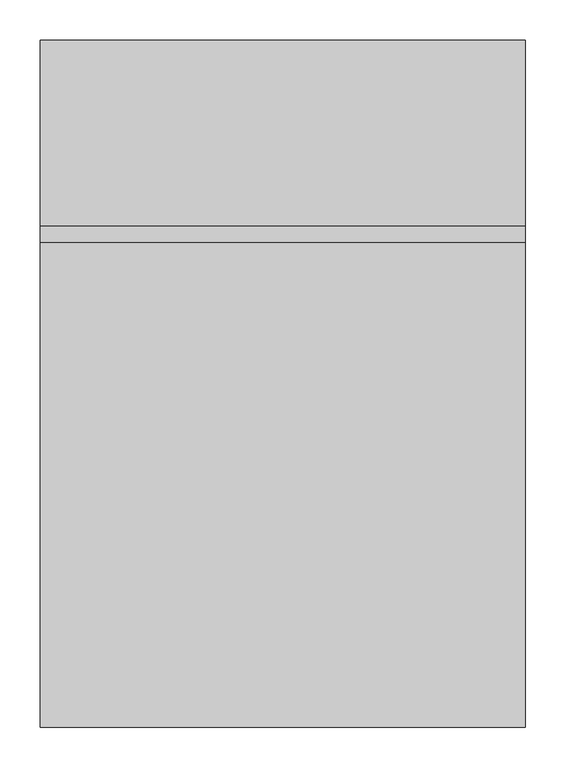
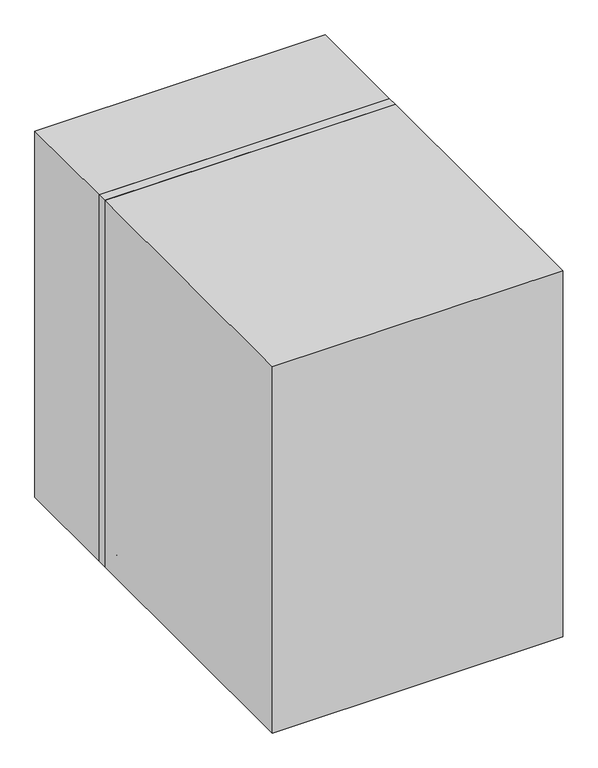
"""IFC4 building model written with IfcOpenShell, lengths in millimetres: electric distribution board geometry, НВО_НавесныеШкафыСплошнаяДверца_DKC : 250х600х800 мм (ГхШхВ)."""

from ifc_helpers import new_model, si_unit, point, frame, frame_2d, origin, place, context, project, spatial, polyline, circle_curve, trimmed, segment, composite_curve, outline, extrude, faceted_brep, source, transform, mapped, element, save
from ifc_brep_helpers import plane_surface, cylinder_surface, revolved_surface, advanced_brep


def electric_distribution_board_24902d2d(model_context):
    return source(origin(), model_context, "Body", "SolidModel", [
        extrude(outline(composite_curve([segment(polyline([(1395.2522548, -210.4361714), (1395.2522548, -202.7599567)]), True, "CONTINUOUS"), segment(trimmed(circle_curve(frame_2d((1404.6374537, -202.7599567)), 9.3851989), [point((1395.2522548, -202.7599567))], [point((1395.9237849, -199.2737072))], False, "CARTESIAN"), True, "CONTINUOUS"), segment(trimmed(circle_curve(frame_2d((1400.4697033, -201.0924825)), 4.8962555), [point((1395.9237849, -199.2737072))], [point((1400.0, -196.2188087))], False, "CARTESIAN"), True, "CONTINUOUS"), segment(trimmed(circle_curve(frame_2d((1399.5302967, -201.0924825)), 4.8962555), [point((1400.0, -196.2188087))], [point((1404.0762151, -199.2737072))], False, "CARTESIAN"), True, "CONTINUOUS"), segment(trimmed(circle_curve(frame_2d((1395.3625463, -202.7599567)), 9.3851989), [point((1404.0762151, -199.2737072))], [point((1404.7477452, -202.7599567))], False, "CARTESIAN"), True, "CONTINUOUS"), segment(polyline([(1404.7477452, -202.7599567), (1404.7477452, -210.4361714), (1395.2522548, -210.4361714)]), True, "CONTINUOUS")], self_intersect=False), holes=[composite_curve([segment(polyline([(1403.4305842, -206.8662202), (1403.4305842, -204.3065187)]), True, "CONTINUOUS"), segment(trimmed(circle_curve(frame_2d((1395.7124901, -204.3065187)), 7.7180942), [point((1403.4305842, -204.3065187))], [point((1402.8023319, -201.256417))], True, "CARTESIAN"), True, "CONTINUOUS"), segment(trimmed(circle_curve(frame_2d((1401.0797503, -201.9974842)), 1.8752248), [point((1402.8023319, -201.256417))], [point((1401.4095765, -200.1514932))], True, "CARTESIAN"), True, "CONTINUOUS"), segment(trimmed(circle_curve(frame_2d((1399.6204625, -210.1649135)), 10.1719966), [point((1401.4095765, -200.1514932))], [point((1400.0, -200.0))], True, "CARTESIAN"), True, "CONTINUOUS"), segment(trimmed(circle_curve(frame_2d((1400.3795375, -210.1649135)), 10.1719966), [point((1400.0, -200.0))], [point((1398.5904235, -200.1514932))], True, "CARTESIAN"), True, "CONTINUOUS"), segment(trimmed(circle_curve(frame_2d((1398.9202497, -201.9974842)), 1.8752248), [point((1398.5904235, -200.1514932))], [point((1397.1976681, -201.256417))], True, "CARTESIAN"), True, "CONTINUOUS"), segment(trimmed(circle_curve(frame_2d((1404.2875099, -204.3065187)), 7.7180942), [point((1397.1976681, -201.256417))], [point((1396.5694158, -204.3065187))], True, "CARTESIAN"), True, "CONTINUOUS"), segment(polyline([(1396.5694158, -204.3065187), (1396.5694158, -206.8662202), (1403.4305842, -206.8662202)]), True, "CONTINUOUS")], self_intersect=False)]), frame((0.0, -252.0, 0.0), z_axis=(0.0, 1.0, 0.0), x_axis=(0.0, 0.0, 1.0)), (0.0, 0.0, 1.0), 2.0),
        extrude(outline(polyline([(1404.7477452, -194.3848727), (1395.2522548, -194.3848727), (1395.2522548, -190.9908575), (1399.2401383, -190.9908575), (1395.2522548, -186.444158), (1395.2522548, -182.3120204), (1400.5384249, -188.1731846), (1404.7477452, -182.4434669), (1404.7477452, -185.0016173), (1400.2876655, -191.0245618), (1404.7477452, -191.0245618), (1404.7477452, -194.3848727)])), frame((0.0, -252.0, 0.0), z_axis=(0.0, 1.0, 0.0), x_axis=(0.0, 0.0, 1.0)), (0.0, 0.0, 1.0), 2.0),
        extrude(outline(composite_curve([segment(trimmed(circle_curve(frame_2d((1390.0078894, -174.3366932)), 14.8634972), [point((1404.0743349, -169.5347498))], [point((1404.6196872, -177.0604615))], False, "CARTESIAN"), True, "CONTINUOUS"), segment(trimmed(circle_curve(frame_2d((1392.9596787, -174.8869328)), 11.860861), [point((1404.6196872, -177.0604615))], [point((1403.3117677, -180.6760845))], False, "CARTESIAN"), True, "CONTINUOUS"), segment(trimmed(circle_curve(frame_2d((1398.8392604, -178.1749446)), 5.1243559), [point((1403.3117677, -180.6760845))], [point((1401.6421758, -182.46478))], False, "CARTESIAN"), True, "CONTINUOUS"), segment(trimmed(circle_curve(frame_2d((1400.1147571, -180.1270803)), 2.7924627), [point((1401.6421758, -182.46478))], [point((1400.0, -182.917184))], False, "CARTESIAN"), True, "CONTINUOUS"), segment(trimmed(circle_curve(frame_2d((1400.1764499, -178.6271352)), 4.2936759), [point((1400.0, -182.917184))], [point((1396.4762827, -180.8053031))], False, "CARTESIAN"), True, "CONTINUOUS"), segment(trimmed(circle_curve(frame_2d((1406.6930797, -174.7910077)), 11.8555763), [point((1396.4762827, -180.8053031))], [point((1395.7901742, -170.134685))], False, "CARTESIAN"), True, "CONTINUOUS"), segment(polyline([(1395.7901742, -170.134685), (1397.2760981, -169.6190256)]), True, "CONTINUOUS"), segment(trimmed(circle_curve(frame_2d((1403.3401731, -173.6307387)), 7.2709591), [point((1397.2760981, -169.6190256))], [point((1397.5933204, -178.0850098))], True, "CARTESIAN"), True, "CONTINUOUS"), segment(trimmed(circle_curve(frame_2d((1399.8135247, -176.3641737)), 2.8090184), [point((1397.5933204, -178.0850098))], [point((1400.8831991, -178.9615532))], True, "CARTESIAN"), True, "CONTINUOUS"), segment(trimmed(circle_curve(frame_2d((1399.3581346, -175.2583969)), 4.0048956), [point((1400.8831991, -178.9615532))], [point((1402.8847256, -177.1563813))], True, "CARTESIAN"), True, "CONTINUOUS"), segment(trimmed(circle_curve(frame_2d((1397.4021495, -174.2057006)), 6.2261671), [point((1402.8847256, -177.1563813))], [point((1402.1645049, -170.1950738))], True, "CARTESIAN"), True, "CONTINUOUS"), segment(polyline([(1402.1645049, -170.1950738), (1404.0743349, -169.5347498)]), True, "CONTINUOUS")], self_intersect=False)), frame((0.0, -252.0, 0.0), z_axis=(0.0, 1.0, 0.0), x_axis=(0.0, 0.0, 1.0)), (0.0, 0.0, 1.0), 2.0),
        extrude(outline(composite_curve([segment(polyline([(-216.0844115, 1403.9810141), (-216.0844115, 1403.1225561), (-217.2764216, 1403.1225561), (-217.2764216, 1403.9989449), (-226.7056091, 1403.9989449), (-226.7056091, 1396.0055647), (-220.8520843, 1396.0055647)]), True, "CONTINUOUS"), segment(trimmed(circle_curve(frame_2d((-220.8520843, 1397.9883644)), 1.9827998), [point((-220.8520843, 1396.0055647))], [point((-222.7799001, 1397.524661))], False, "CARTESIAN"), True, "CONTINUOUS"), segment(polyline([(-222.7799001, 1397.524661), (-222.7799001, 1398.5784181)]), True, "CONTINUOUS"), segment(trimmed(circle_curve(frame_2d((-217.7500222, 1403.048804)), 6.7293403), [point((-222.7799001, 1398.5784181))], [point((-212.7201443, 1398.5784181))], True, "CARTESIAN"), True, "CONTINUOUS"), segment(polyline([(-212.7201443, 1398.5784181), (-212.7201443, 1397.2967122)]), True, "CONTINUOUS"), segment(trimmed(circle_curve(frame_2d((-216.7257862, 1400.1985482)), 4.9462935), [point((-212.7201443, 1397.2967122))], [point((-216.7257862, 1395.2522548))], False, "CARTESIAN"), True, "CONTINUOUS"), segment(polyline([(-216.7257862, 1395.2522548), (-228.8959546, 1395.2522548)]), True, "CONTINUOUS"), segment(trimmed(circle_curve(frame_2d((-228.8959546, 1396.2525173)), 1.0002626), [point((-228.8959546, 1395.2522548))], [point((-229.8962172, 1396.2525173))], False, "CARTESIAN"), True, "CONTINUOUS"), segment(polyline([(-229.8962172, 1396.2525173), (-229.8962172, 1403.7482214)]), True, "CONTINUOUS"), segment(trimmed(circle_curve(frame_2d((-228.8921838, 1403.7482214)), 1.0040334), [point((-229.8962172, 1403.7482214))], [point((-228.8921838, 1404.7522548))], False, "CARTESIAN"), True, "CONTINUOUS"), segment(polyline([(-228.8921838, 1404.7522548), (-216.8556522, 1404.7522548)]), True, "CONTINUOUS"), segment(trimmed(circle_curve(frame_2d((-216.8556522, 1403.9810141)), 0.7712407), [point((-216.8556522, 1404.7522548))], [point((-216.0844115, 1403.9810141))], False, "CARTESIAN"), True, "CONTINUOUS")], self_intersect=False)), frame((0.0, -250.0, 0.0), z_axis=(0.0, -1.0, 0.0), x_axis=(1.0, 0.0, 0.0)), (0.0, 0.0, 1.0), 2.0),
        extrude(outline(composite_curve([segment(polyline([(1399.1735802, -212.7201443), (1399.9609475, -212.7201443)]), True, "CONTINUOUS"), segment(trimmed(circle_curve(frame_2d((1405.0528216, -217.7500222)), 7.1572937), [point((1399.9609475, -212.7201443))], [point((1399.9609475, -222.7799001))], True, "CARTESIAN"), True, "CONTINUOUS"), segment(polyline([(1399.9609475, -222.7799001), (1399.1735802, -222.7799001)]), True, "CONTINUOUS"), segment(trimmed(circle_curve(frame_2d((1403.6469573, -217.7500222)), 6.7313279), [point((1399.1735802, -222.7799001))], [point((1399.1735802, -212.7201443))], False, "CARTESIAN"), True, "CONTINUOUS")], self_intersect=False)), frame((0.0, -252.0, 0.0), z_axis=(0.0, 1.0, 0.0), x_axis=(0.0, 0.0, 1.0)), (0.0, 0.0, 1.0), 2.0),
        extrude(outline(composite_curve([segment(trimmed(circle_curve(frame_2d((1395.6681942, -217.6745713)), 5.9267817), [point((1399.8365314, -213.4612939))], [point((1399.892123, -221.8321146))], False, "CARTESIAN"), True, "CONTINUOUS"), segment(polyline([(1399.892123, -221.8321146), (1399.3386839, -221.2786755)]), True, "CONTINUOUS"), segment(trimmed(circle_curve(frame_2d((1394.0800223, -217.6967539)), 6.3626791), [point((1399.3386839, -221.2786755))], [point((1399.3386839, -214.1148323))], True, "CARTESIAN"), True, "CONTINUOUS"), segment(polyline([(1399.3386839, -214.1148323), (1399.8365314, -213.4612939)]), True, "CONTINUOUS")], self_intersect=False)), frame((0.0, -252.0, 0.0), z_axis=(0.0, 1.0, 0.0), x_axis=(0.0, 0.0, 1.0)), (0.0, 0.0, 1.0), 2.0),
        extrude(outline(composite_curve([segment(trimmed(circle_curve(frame_2d((1393.5765057, -217.7053491)), 6.5304546), [point((1399.2646248, -214.4972128))], [point((1399.2646248, -220.9134855))], False, "CARTESIAN"), True, "CONTINUOUS"), segment(polyline([(1399.2646248, -220.9134855), (1398.9146088, -220.0681193)]), True, "CONTINUOUS"), segment(trimmed(circle_curve(frame_2d((1392.4429647, -217.6966214)), 6.8924726), [point((1398.9146088, -220.0681193))], [point((1398.9146088, -215.3251236))], True, "CARTESIAN"), True, "CONTINUOUS"), segment(polyline([(1398.9146088, -215.3251236), (1399.2646248, -214.4972128)]), True, "CONTINUOUS")], self_intersect=False)), frame((0.0, -252.0, 0.0), z_axis=(0.0, 1.0, 0.0), x_axis=(0.0, 0.0, 1.0)), (0.0, 0.0, 1.0), 2.0),
        extrude(outline(composite_curve([segment(polyline([(1399.9744254, -213.3219133), (1400.6884044, -212.6079342)]), True, "CONTINUOUS"), segment(trimmed(circle_curve(frame_2d((1395.6681942, -217.6745713)), 7.1325536), [point((1400.6884044, -212.6079342))], [point((1400.7458455, -222.683641))], False, "CARTESIAN"), True, "CONTINUOUS"), segment(polyline([(1400.7458455, -222.683641), (1400.031856, -221.9696515)]), True, "CONTINUOUS"), segment(trimmed(circle_curve(frame_2d((1395.6681942, -217.6745713)), 6.1228472), [point((1400.031856, -221.9696515))], [point((1399.9744254, -213.3219133))], True, "CARTESIAN"), True, "CONTINUOUS")], self_intersect=False)), frame((0.0, -252.0, 0.0), z_axis=(0.0, 1.0, 0.0), x_axis=(0.0, 0.0, 1.0)), (0.0, 0.0, 1.0), 2.0),
        advanced_brep(
        [(-280.0, -260.0, 1027.0), (-280.0, -260.0, 1053.0), (-280.0, -253.0, 1060.0), (-280.0, -250.0, 1060.0), (-280.0, -250.0, 1020.0), (-280.0, -253.0, 1020.0), (-240.0, -260.0, 1027.0), (-240.0, -253.0, 1020.0), (-240.0, -250.0, 1020.0), (-240.0, -250.0, 1060.0), (-240.0, -253.0, 1060.0), (-240.0, -260.0, 1053.0), (-270.0, -260.0, 1040.0), (-250.0, -260.0, 1040.0), (-250.0, -258.0, 1040.0), (-270.0, -258.0, 1040.0)],
        [
            (0, 1),
            (1, 2, circle_curve(frame((-280.0, -253.0, 1053.0), z_axis=(-1.0, 0.0, 0.0), x_axis=(0.0, 0.0, -1.0)), 7.0)),
            (2, 3),
            (3, 4),
            (4, 5),
            (5, 0, circle_curve(frame((-280.0, -253.0, 1027.0), z_axis=(-1.0, 0.0, 0.0), x_axis=(0.0, 0.0, -1.0)), 7.0)),
            (6, 7, circle_curve(frame((-240.0, -253.0, 1027.0), z_axis=(1.0, 0.0, 0.0), x_axis=(0.0, 0.0, -1.0)), 7.0)),
            (7, 8),
            (8, 9),
            (9, 10),
            (10, 11, circle_curve(frame((-240.0, -253.0, 1053.0), z_axis=(1.0, 0.0, 0.0), x_axis=(0.0, 0.0, -1.0)), 7.0)),
            (11, 6),
            (0, 6),
            (11, 1),
            (12, 13, circle_curve(frame((-260.0, -260.0, 1040.0), z_axis=(0.0, 1.0, 0.0), x_axis=(-1.0, 0.0, 0.0)), 10.0)),
            (13, 12, circle_curve(frame((-260.0, -260.0, 1040.0), z_axis=(0.0, 1.0, 0.0), x_axis=(-1.0, 0.0, 0.0)), 10.0)),
            (10, 2),
            (9, 3),
            (8, 4),
            (7, 5),
            (14, 15, circle_curve(frame((-260.0, -258.0, 1040.0), z_axis=(0.0, -1.0, 0.0), x_axis=(-1.0, 0.0, 0.0)), 10.0)),
            (15, 14, circle_curve(frame((-260.0, -258.0, 1040.0), z_axis=(0.0, -1.0, 0.0), x_axis=(-1.0, 0.0, 0.0)), 10.0)),
            (14, 13),
            (12, 15),
        ],
        [
            plane_surface(frame((-280.0, -260.0, 1052.2232354), z_axis=(-1.0, 0.0, 0.0), x_axis=(0.0, 0.0, 1.0))),
            plane_surface(frame((-240.0, -260.0, 1052.2232354), z_axis=(1.0, 0.0, 0.0), x_axis=(0.0, 0.0, -1.0))),
            plane_surface(frame((-280.0, -260.0, 1027.0), z_axis=(0.0, -1.0, 0.0), x_axis=(1.0, 0.0, 0.0))),
            cylinder_surface(frame((-240.0, -253.0, 1053.0), z_axis=(-1.0, 0.0, 0.0), x_axis=(0.0, 0.0, -1.0)), 7.0),
            plane_surface(frame((-280.0, -253.0, 1060.0), z_axis=(0.0, 0.0, 1.0), x_axis=(1.0, 0.0, 0.0))),
            plane_surface(frame((-280.0, -250.0, 1060.0), z_axis=(0.0, 1.0, 0.0), x_axis=(1.0, 0.0, 0.0))),
            plane_surface(frame((-280.0, -250.0, 1020.0), z_axis=(0.0, 0.0, -1.0), x_axis=(1.0, 0.0, 0.0))),
            cylinder_surface(frame((-240.0, -253.0, 1027.0), z_axis=(-1.0, 0.0, 0.0), x_axis=(0.0, 0.0, -1.0)), 7.0),
            plane_surface(frame((-270.0, -258.0, 1040.0), z_axis=(0.0, -1.0, 0.0), x_axis=(0.0, 0.0, 1.0))),
            revolved_surface(polyline([(-270.0, -260.0, 1040.0), (-270.0, -258.0, 1040.0)]), (-260.0, -258.0, 1040.0), (0.0, -1.0, 0.0)),
        ],
        [
            (0, [[1, 2, 3, 4, 5, 6]]),
            (1, [[7, 8, 9, 10, 11, 12]]),
            (2, [[-1, 13, -12, 14], [15, 16]]),
            (3, [[-2, -14, -11, 17]]),
            (4, [[-3, -17, -10, 18]]),
            (5, [[-4, -18, -9, 19]]),
            (6, [[-5, -19, -8, 20]]),
            (7, [[-6, -20, -7, -13]]),
            (8, [[21, 22]]),
            (9, [[-21, 23, -15, 24]]),
            (9, [[-22, -24, -16, -23]]),
        ],
    ),
        advanced_brep(
        [(-280.0, -260.0, 1747.0), (-280.0, -260.0, 1773.0), (-280.0, -253.0, 1780.0), (-280.0, -250.0, 1780.0), (-280.0, -250.0, 1740.0), (-280.0, -253.0, 1740.0), (-240.0, -260.0, 1747.0), (-240.0, -253.0, 1740.0), (-240.0, -250.0, 1740.0), (-240.0, -250.0, 1780.0), (-240.0, -253.0, 1780.0), (-240.0, -260.0, 1773.0), (-270.0, -260.0, 1760.0), (-250.0, -260.0, 1760.0), (-250.0, -258.0, 1760.0), (-270.0, -258.0, 1760.0)],
        [
            (0, 1),
            (1, 2, circle_curve(frame((-280.0, -253.0, 1773.0), z_axis=(-1.0, 0.0, 0.0), x_axis=(0.0, 0.0, -1.0)), 7.0)),
            (2, 3),
            (3, 4),
            (4, 5),
            (5, 0, circle_curve(frame((-280.0, -253.0, 1747.0), z_axis=(-1.0, 0.0, 0.0), x_axis=(0.0, 0.0, -1.0)), 7.0)),
            (6, 7, circle_curve(frame((-240.0, -253.0, 1747.0), z_axis=(1.0, 0.0, 0.0), x_axis=(0.0, 0.0, -1.0)), 7.0)),
            (7, 8),
            (8, 9),
            (9, 10),
            (10, 11, circle_curve(frame((-240.0, -253.0, 1773.0), z_axis=(1.0, 0.0, 0.0), x_axis=(0.0, 0.0, -1.0)), 7.0)),
            (11, 6),
            (0, 6),
            (11, 1),
            (12, 13, circle_curve(frame((-260.0, -260.0, 1760.0), z_axis=(0.0, 1.0, 0.0), x_axis=(-1.0, 0.0, 0.0)), 10.0)),
            (13, 12, circle_curve(frame((-260.0, -260.0, 1760.0), z_axis=(0.0, 1.0, 0.0), x_axis=(-1.0, 0.0, 0.0)), 10.0)),
            (10, 2),
            (9, 3),
            (8, 4),
            (7, 5),
            (14, 15, circle_curve(frame((-260.0, -258.0, 1760.0), z_axis=(0.0, -1.0, 0.0), x_axis=(-1.0, 0.0, 0.0)), 10.0)),
            (15, 14, circle_curve(frame((-260.0, -258.0, 1760.0), z_axis=(0.0, -1.0, 0.0), x_axis=(-1.0, 0.0, 0.0)), 10.0)),
            (14, 13),
            (12, 15),
        ],
        [
            plane_surface(frame((-280.0, -260.0, 1772.2232354), z_axis=(-1.0, 0.0, 0.0), x_axis=(0.0, 0.0, 1.0))),
            plane_surface(frame((-240.0, -260.0, 1772.2232354), z_axis=(1.0, 0.0, 0.0), x_axis=(0.0, 0.0, -1.0))),
            plane_surface(frame((-280.0, -260.0, 1747.0), z_axis=(0.0, -1.0, 0.0), x_axis=(1.0, 0.0, 0.0))),
            cylinder_surface(frame((-240.0, -253.0, 1773.0), z_axis=(-1.0, 0.0, 0.0), x_axis=(0.0, 0.0, -1.0)), 7.0),
            plane_surface(frame((-280.0, -253.0, 1780.0), z_axis=(0.0, 0.0, 1.0), x_axis=(1.0, 0.0, 0.0))),
            plane_surface(frame((-280.0, -250.0, 1780.0), z_axis=(0.0, 1.0, 0.0), x_axis=(1.0, 0.0, 0.0))),
            plane_surface(frame((-280.0, -250.0, 1740.0), z_axis=(0.0, 0.0, -1.0), x_axis=(1.0, 0.0, 0.0))),
            cylinder_surface(frame((-240.0, -253.0, 1747.0), z_axis=(-1.0, 0.0, 0.0), x_axis=(0.0, 0.0, -1.0)), 7.0),
            plane_surface(frame((-270.0, -258.0, 1760.0), z_axis=(0.0, -1.0, 0.0), x_axis=(0.0, 0.0, 1.0))),
            revolved_surface(polyline([(-270.0, -260.0, 1760.0), (-270.0, -258.0, 1760.0)]), (-260.0, -258.0, 1760.0), (0.0, -1.0, 0.0)),
        ],
        [
            (0, [[1, 2, 3, 4, 5, 6]]),
            (1, [[7, 8, 9, 10, 11, 12]]),
            (2, [[-1, 13, -12, 14], [15, 16]]),
            (3, [[-2, -14, -11, 17]]),
            (4, [[-3, -17, -10, 18]]),
            (5, [[-4, -18, -9, 19]]),
            (6, [[-5, -19, -8, 20]]),
            (7, [[-6, -20, -7, -13]]),
            (8, [[21, 22]]),
            (9, [[-21, 23, -15, 24]]),
            (9, [[-22, -24, -16, -23]]),
        ],
    ),
        extrude(outline(polyline([(300.0, -230.0), (300.0, -250.0), (-300.0, -250.0), (-300.0, -230.0), (300.0, -230.0)])), frame((0.0, 0.0, 1000.0), z_axis=(0.0, 0.0, 1.0), x_axis=(1.0, 0.0, 0.0)), (0.0, 0.0, 1.0), 800.0),
        extrude(outline(polyline([(280.0, -41.0), (-280.0, -41.0), (-280.0, -40.0), (280.0, -40.0), (280.0, -41.0)])), frame((0.0, 0.0, 1020.0), z_axis=(0.0, 0.0, 1.0), x_axis=(1.0, 0.0, 0.0)), (0.0, 0.0, 1.0), 760.0),
        faceted_brep([(-300.0, 0.0, 1800.0), (300.0, 0.0, 1800.0), (300.0, 0.0, 1000.0), (-300.0, 0.0, 1000.0), (280.0, -20.0, 1020.0), (280.0, -20.0, 1780.0), (-280.0, -20.0, 1780.0), (-280.0, -20.0, 1020.0), (300.0, -230.0, 1800.0), (-300.0, -230.0, 1800.0), (-300.0, -230.0, 1000.0), (300.0, -230.0, 1000.0), (280.0, -230.0, 1780.0), (280.0, -230.0, 1020.0), (-280.0, -230.0, 1020.0), (-280.0, -230.0, 1780.0)], [[[0, 1, 2, 3]], [[4, 5, 6, 7]], [[8, 9, 10, 11], [12, 13, 14, 15]], [[9, 8, 1, 0]], [[10, 9, 0, 3]], [[11, 10, 3, 2]], [[1, 8, 11, 2]], [[13, 12, 5, 4]], [[14, 13, 4, 7]], [[15, 14, 7, 6]], [[12, 15, 6, 5]]]),
        extrude(outline(polyline([(300.0, -850.0), (-300.0, -850.0), (-300.0, -250.0), (300.0, -250.0), (300.0, -850.0)])), frame((0.0, 0.0, 1000.0), z_axis=(0.0, 0.0, 1.0), x_axis=(1.0, 0.0, 0.0)), (0.0, 0.0, 1.0), 800.0),
    ])


if __name__ == "__main__":
    model = new_model("IFC4")
    model_context = context("Model", 3, world=origin())
    ifc_project = project(units=[si_unit("LENGTHUNIT", "METRE", prefix="MILLI")], contexts=[model_context])
    site = spatial("IfcSite", under=ifc_project)
    building = spatial("IfcBuilding", under=site)
    placement = place(None, origin())
    electric_distribution_board_shape = electric_distribution_board_24902d2d(model_context)
    element("IfcElectricDistributionBoard", 1, ObjectType="НВО_НавесныеШкафыСплошнаяДверца_DKC : 250х600х800 мм (ГхШхВ)", at=placement, inside=building, context=model_context, shape_type="MappedRepresentation", body=[
        mapped(electric_distribution_board_shape, transform((0.0, 0.0, 0.0), x_axis=(1.0, 0.0, 0.0), y_axis=(0.0, 1.0, 0.0), z_axis=(0.0, 0.0, 1.0))),
    ])
    save(model, "model.ifc")
